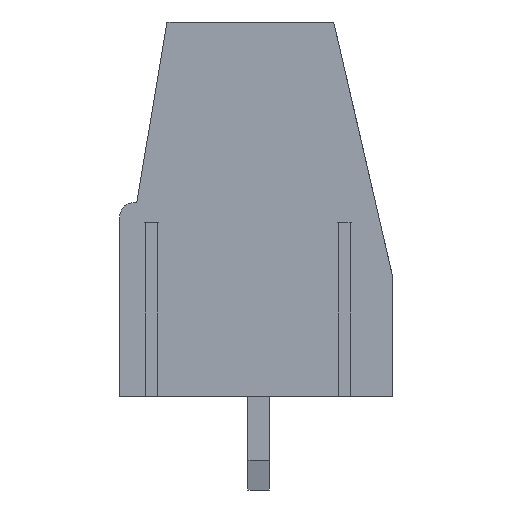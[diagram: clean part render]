
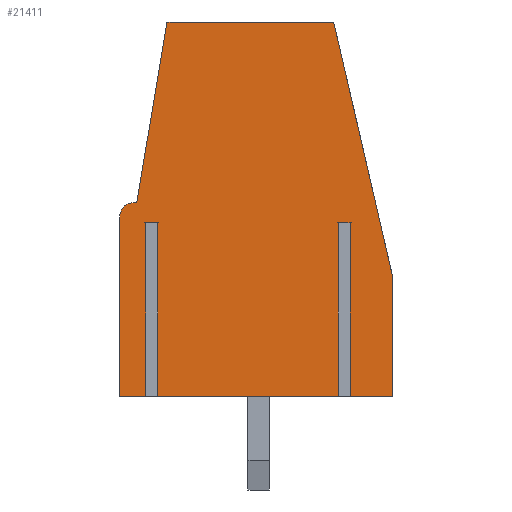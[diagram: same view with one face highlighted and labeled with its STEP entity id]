
A CAD part, left-side view. The second image highlights one B-rep face of the part: STEP entity #21411.
In plain terms, the highlighted planar face has unit normal (-1, 0, 0).
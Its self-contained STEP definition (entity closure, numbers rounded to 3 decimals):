
#371 = DIRECTION ( 'NONE',  ( 0., 0., 1. ) ) ;
#634 = CARTESIAN_POINT ( 'NONE',  ( -15.24, 4.22, 0. ) ) ;
#1620 = EDGE_CURVE ( 'NONE', #16819, #49815, #45799, .T. ) ;
#1638 = ORIENTED_EDGE ( 'NONE', *, *, #44826, .T. ) ;
#1777 = DIRECTION ( 'NONE',  ( 0., 0., -1. ) ) ;
#1876 = DIRECTION ( 'NONE',  ( 1., 0., 0. ) ) ;
#2073 = EDGE_CURVE ( 'NONE', #11908, #26131, #51728, .T. ) ;
#2295 = ORIENTED_EDGE ( 'NONE', *, *, #27570, .F. ) ;
#2296 = VERTEX_POINT ( 'NONE', #55023 ) ;
#2306 = CARTESIAN_POINT ( 'NONE',  ( -15.24, -2.98, 0. ) ) ;
#3047 = ORIENTED_EDGE ( 'NONE', *, *, #20903, .F. ) ;
#3538 = LINE ( 'NONE', #20746, #15453 ) ;
#3814 = CARTESIAN_POINT ( 'NONE',  ( -15.24, -2.98, 6.5 ) ) ;
#3853 = CARTESIAN_POINT ( 'NONE',  ( -15.24, 5.2, 6.7 ) ) ;
#3887 = CARTESIAN_POINT ( 'NONE',  ( -15.24, 4.22, 6.5 ) ) ;
#4417 = LINE ( 'NONE', #3853, #17218 ) ;
#5030 = CARTESIAN_POINT ( 'NONE',  ( -15.24, -3.42, 0. ) ) ;
#5737 = EDGE_CURVE ( 'NONE', #17591, #19747, #5786, .T. ) ;
#5786 = LINE ( 'NONE', #36336, #9761 ) ;
#6754 = ORIENTED_EDGE ( 'NONE', *, *, #45484, .F. ) ;
#7118 = CARTESIAN_POINT ( 'NONE',  ( -15.24, 4.65, 6.7 ) ) ;
#7432 = CIRCLE ( 'NONE', #44903, 0.55 ) ;
#7503 = CARTESIAN_POINT ( 'NONE',  ( -15.24, -2.807, 14. ) ) ;
#8220 = CARTESIAN_POINT ( 'NONE',  ( -15.24, -2.98, 7.666 ) ) ;
#8524 = CARTESIAN_POINT ( 'NONE',  ( -15.24, -2.98, 6.5 ) ) ;
#8549 = ORIENTED_EDGE ( 'NONE', *, *, #2073, .T. ) ;
#9030 = LINE ( 'NONE', #30716, #55118 ) ;
#9761 = VECTOR ( 'NONE', #22391, 1000. ) ;
#9794 = ORIENTED_EDGE ( 'NONE', *, *, #27751, .F. ) ;
#9866 = CARTESIAN_POINT ( 'NONE',  ( -15.24, 5.2, 6.7 ) ) ;
#10446 = CARTESIAN_POINT ( 'NONE',  ( -15.24, 3.78, 6.5 ) ) ;
#11171 = CARTESIAN_POINT ( 'NONE',  ( -15.24, -3.42, 7.666 ) ) ;
#11908 = VERTEX_POINT ( 'NONE', #10446 ) ;
#12011 = CARTESIAN_POINT ( 'NONE',  ( -15.24, 5.2, 0. ) ) ;
#12225 = LINE ( 'NONE', #8220, #22528 ) ;
#12264 = VERTEX_POINT ( 'NONE', #7503 ) ;
#13536 = VECTOR ( 'NONE', #55325, 1000. ) ;
#13987 = LINE ( 'NONE', #39990, #41862 ) ;
#14443 = EDGE_CURVE ( 'NONE', #30165, #26131, #28924, .T. ) ;
#14556 = DIRECTION ( 'NONE',  ( 0., -1., 0. ) ) ;
#15094 = ORIENTED_EDGE ( 'NONE', *, *, #5737, .F. ) ;
#15453 = VECTOR ( 'NONE', #51379, 1000. ) ;
#15780 = DIRECTION ( 'NONE',  ( 0., 0., 1. ) ) ;
#16173 = ORIENTED_EDGE ( 'NONE', *, *, #20840, .F. ) ;
#16457 = VERTEX_POINT ( 'NONE', #37335 ) ;
#16552 = VERTEX_POINT ( 'NONE', #3887 ) ;
#16720 = VECTOR ( 'NONE', #19219, 1000. ) ;
#16819 = VERTEX_POINT ( 'NONE', #634 ) ;
#17079 = DIRECTION ( 'NONE',  ( 0., 0., -1. ) ) ;
#17218 = VECTOR ( 'NONE', #371, 1000. ) ;
#17591 = VERTEX_POINT ( 'NONE', #18435 ) ;
#18435 = CARTESIAN_POINT ( 'NONE',  ( -15.24, -5., 0. ) ) ;
#19219 = DIRECTION ( 'NONE',  ( 0., -1., 0. ) ) ;
#19435 = DIRECTION ( 'NONE',  ( 1., 0., 0. ) ) ;
#19747 = VERTEX_POINT ( 'NONE', #5030 ) ;
#20106 = CARTESIAN_POINT ( 'NONE',  ( -15.24, 5.2, 0. ) ) ;
#20746 = CARTESIAN_POINT ( 'NONE',  ( -15.24, 3.428, 14. ) ) ;
#20840 = EDGE_CURVE ( 'NONE', #48700, #2296, #3538, .T. ) ;
#20903 = EDGE_CURVE ( 'NONE', #49815, #37479, #4417, .T. ) ;
#21411 = ADVANCED_FACE ( 'NONE', ( #25142 ), #28290, .T. ) ;
#22391 = DIRECTION ( 'NONE',  ( 0., 1., 0. ) ) ;
#22528 = VECTOR ( 'NONE', #43088, 1000. ) ;
#23201 = ORIENTED_EDGE ( 'NONE', *, *, #14443, .F. ) ;
#23513 = EDGE_CURVE ( 'NONE', #35728, #48700, #7432, .T. ) ;
#23515 = LINE ( 'NONE', #40961, #26450 ) ;
#24572 = DIRECTION ( 'NONE',  ( -1., 0., 0. ) ) ;
#25003 = EDGE_CURVE ( 'NONE', #2296, #12264, #37470, .T. ) ;
#25142 = FACE_OUTER_BOUND ( 'NONE', #52416, .T. ) ;
#25298 = EDGE_CURVE ( 'NONE', #16552, #16819, #9030, .T. ) ;
#26131 = VERTEX_POINT ( 'NONE', #42926 ) ;
#26450 = VECTOR ( 'NONE', #1777, 1000. ) ;
#27019 = ORIENTED_EDGE ( 'NONE', *, *, #25298, .F. ) ;
#27495 = VECTOR ( 'NONE', #40993, 1000. ) ;
#27570 = EDGE_CURVE ( 'NONE', #50903, #30165, #12225, .T. ) ;
#27751 = EDGE_CURVE ( 'NONE', #37479, #35728, #41720, .T. ) ;
#27847 = ORIENTED_EDGE ( 'NONE', *, *, #47753, .F. ) ;
#28290 = PLANE ( 'NONE',  #50082 ) ;
#28445 = CARTESIAN_POINT ( 'NONE',  ( -15.24, 4.65, 6.7 ) ) ;
#28521 = DIRECTION ( 'NONE',  ( 0., 0., 1. ) ) ;
#28924 = LINE ( 'NONE', #20106, #27495 ) ;
#30165 = VERTEX_POINT ( 'NONE', #2306 ) ;
#30520 = ORIENTED_EDGE ( 'NONE', *, *, #44448, .T. ) ;
#30645 = VECTOR ( 'NONE', #54673, 1000. ) ;
#30649 = LINE ( 'NONE', #35253, #41253 ) ;
#30716 = CARTESIAN_POINT ( 'NONE',  ( -15.24, 4.22, 7.666 ) ) ;
#31231 = DIRECTION ( 'NONE',  ( 0., -0.225, -0.974 ) ) ;
#32329 = CARTESIAN_POINT ( 'NONE',  ( -15.24, 5.2, 0. ) ) ;
#34271 = EDGE_CURVE ( 'NONE', #16457, #19747, #49845, .T. ) ;
#35253 = CARTESIAN_POINT ( 'NONE',  ( -15.24, -3.8, 9.7 ) ) ;
#35640 = VECTOR ( 'NONE', #50394, 1000. ) ;
#35728 = VERTEX_POINT ( 'NONE', #38181 ) ;
#36336 = CARTESIAN_POINT ( 'NONE',  ( -15.24, 5.2, 0. ) ) ;
#37335 = CARTESIAN_POINT ( 'NONE',  ( -15.24, -3.42, 6.5 ) ) ;
#37470 = LINE ( 'NONE', #42053, #16720 ) ;
#37479 = VERTEX_POINT ( 'NONE', #9866 ) ;
#37731 = CARTESIAN_POINT ( 'NONE',  ( -15.24, 4.65, 6.7 ) ) ;
#38181 = CARTESIAN_POINT ( 'NONE',  ( -15.24, 4.65, 7.25 ) ) ;
#38394 = LINE ( 'NONE', #3814, #13536 ) ;
#39086 = CARTESIAN_POINT ( 'NONE',  ( -15.24, 3.78, 7.666 ) ) ;
#39351 = ORIENTED_EDGE ( 'NONE', *, *, #25003, .F. ) ;
#39369 = DIRECTION ( 'NONE',  ( 0., 0., -1. ) ) ;
#39990 = CARTESIAN_POINT ( 'NONE',  ( -15.24, 4.22, 6.5 ) ) ;
#40797 = DIRECTION ( 'NONE',  ( 0., 0., 1. ) ) ;
#40961 = CARTESIAN_POINT ( 'NONE',  ( -15.24, -5., 0. ) ) ;
#40993 = DIRECTION ( 'NONE',  ( 0., 1., 0. ) ) ;
#41253 = VECTOR ( 'NONE', #31231, 1000. ) ;
#41720 = CIRCLE ( 'NONE', #49986, 0.55 ) ;
#41862 = VECTOR ( 'NONE', #14556, 1000. ) ;
#42053 = CARTESIAN_POINT ( 'NONE',  ( -15.24, -2.807, 14. ) ) ;
#42701 = VERTEX_POINT ( 'NONE', #55427 ) ;
#42926 = CARTESIAN_POINT ( 'NONE',  ( -15.24, 3.78, 0. ) ) ;
#43088 = DIRECTION ( 'NONE',  ( 0., 0., -1. ) ) ;
#44448 = EDGE_CURVE ( 'NONE', #50903, #16457, #38394, .T. ) ;
#44826 = EDGE_CURVE ( 'NONE', #16552, #11908, #13987, .T. ) ;
#44903 = AXIS2_PLACEMENT_3D ( 'NONE', #7118, #19435, #28521 ) ;
#45412 = ORIENTED_EDGE ( 'NONE', *, *, #1620, .F. ) ;
#45484 = EDGE_CURVE ( 'NONE', #42701, #17591, #23515, .T. ) ;
#45799 = LINE ( 'NONE', #12011, #30645 ) ;
#47753 = EDGE_CURVE ( 'NONE', #12264, #42701, #30649, .T. ) ;
#48700 = VERTEX_POINT ( 'NONE', #52826 ) ;
#49815 = VERTEX_POINT ( 'NONE', #32329 ) ;
#49831 = ORIENTED_EDGE ( 'NONE', *, *, #34271, .T. ) ;
#49845 = LINE ( 'NONE', #11171, #35640 ) ;
#49986 = AXIS2_PLACEMENT_3D ( 'NONE', #28445, #1876, #40797 ) ;
#50082 = AXIS2_PLACEMENT_3D ( 'NONE', #37731, #24572, #15780 ) ;
#50394 = DIRECTION ( 'NONE',  ( 0., 0., -1. ) ) ;
#50903 = VERTEX_POINT ( 'NONE', #8524 ) ;
#51379 = DIRECTION ( 'NONE',  ( 0., -0.165, 0.986 ) ) ;
#51728 = LINE ( 'NONE', #39086, #54563 ) ;
#52416 = EDGE_LOOP ( 'NONE', ( #6754, #27847, #39351, #16173, #53898, #9794, #3047, #45412, #27019, #1638, #8549, #23201, #2295, #30520, #49831, #15094 ) ) ;
#52826 = CARTESIAN_POINT ( 'NONE',  ( -15.24, 4.559, 7.242 ) ) ;
#53898 = ORIENTED_EDGE ( 'NONE', *, *, #23513, .F. ) ;
#54563 = VECTOR ( 'NONE', #39369, 1000. ) ;
#54673 = DIRECTION ( 'NONE',  ( 0., 1., 0. ) ) ;
#55023 = CARTESIAN_POINT ( 'NONE',  ( -15.24, 3.428, 14. ) ) ;
#55118 = VECTOR ( 'NONE', #17079, 1000. ) ;
#55325 = DIRECTION ( 'NONE',  ( 0., -1., 0. ) ) ;
#55427 = CARTESIAN_POINT ( 'NONE',  ( -15.24, -5., 4.502 ) ) ;
